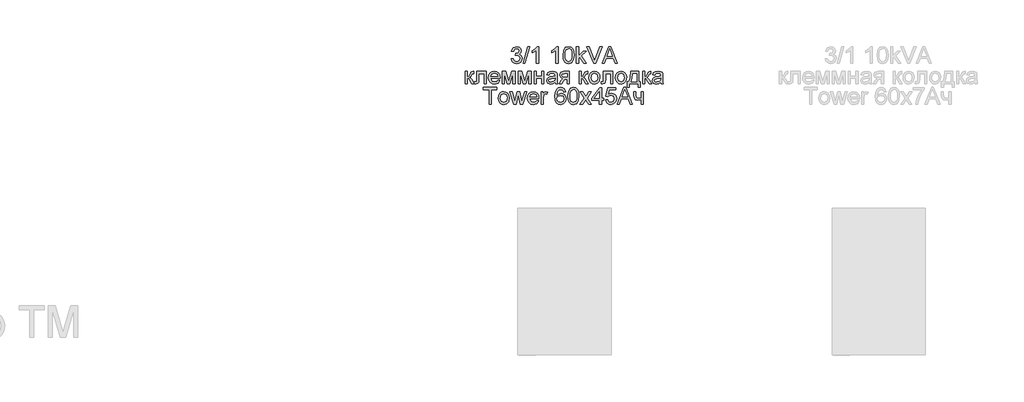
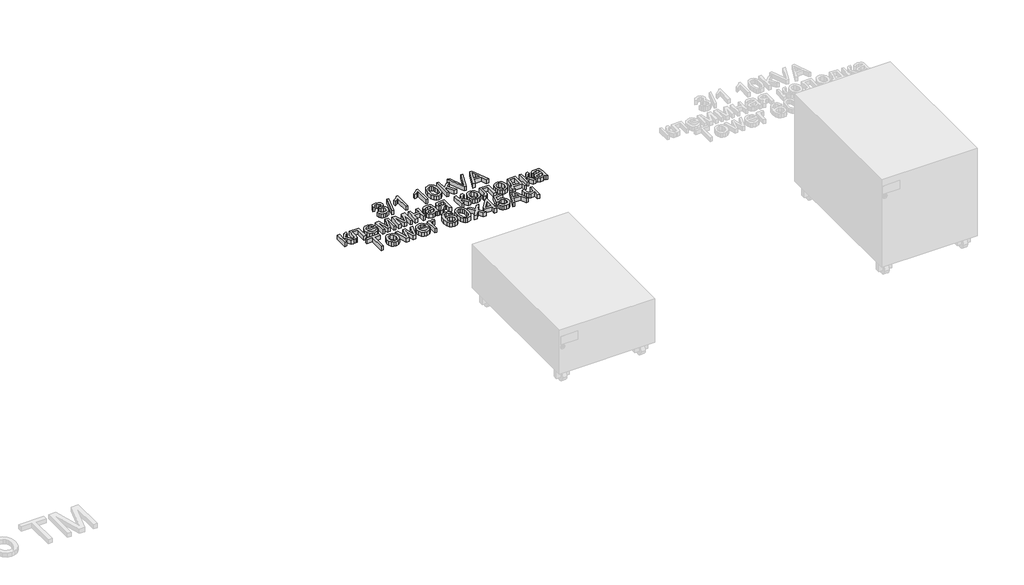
# One storey, part 33 of 74: 1 proxy.
"""IFC4 building model written with IfcOpenShell, lengths in millimetres."""

from ifc_helpers import new_model, si_unit, origin, origin_with_axes, place, context, project, spatial, polyline, outline, extrude, element, save

model = new_model("IFC4")

# Units and contexts
model_context = context("Model", 3, world=origin())
ifc_project = project(units=[si_unit("LENGTHUNIT", "METRE", prefix="MILLI")], contexts=[model_context])

# Site, building, storey
site = spatial("IfcSite", under=ifc_project)
building = spatial("IfcBuilding", under=site)
storey = spatial("IfcBuildingStorey", under=building, Name="Этаж 01", Elevation=0.0)

# Proxy
placement = place(None, origin())
element("IfcBuildingElementProxy", 1, Name="80 мм Arial", ObjectType="80 мм Arial", at=placement, inside=storey, context=model_context, shape_type="SweptSolid", body=[
    extrude(outline(polyline([(1098.3137414, -15105.2863601), (1108.3593724, -15104.0306562), (1113.9021278, -15114.6060373), (1124.2714949, -15117.8433988), (1136.475367, -15113.3895741), (1141.0076732, -15102.3629245), (1136.5146077, -15091.9739369), (1125.0955506, -15087.8634688), (1118.0518367, -15088.9622097), (1119.1701979, -15078.9165786), (1120.7790685, -15079.0343009), (1132.1785053, -15076.150106), (1137.2405615, -15067.2816974), (1133.5715518, -15059.423738), (1124.114532, -15056.3139089), (1114.5397899, -15059.4531685), (1109.6150762, -15068.8709476), (1099.5694452, -15067.6152437), (1107.7903816, -15051.8600842), (1123.7613652, -15046.2682778), (1135.8769456, -15049.0249403), (1144.3529468, -15056.5591635), (1147.2861926, -15066.6930862), (1144.5000996, -15075.9539023), (1136.2595429, -15082.6052088), (1147.2077111, -15089.4723394), (1151.0533042, -15102.5395078), (1149.1305076, -15112.330074), (1143.3621179, -15120.5117696), (1134.6555774, -15126.0447148), (1123.9183282, -15127.8890298), (1114.2062435, -15126.3144949), (1106.2992332, -15121.5908901), (1100.8006236, -15114.3656877), (1098.3137414, -15105.2863601)])), origin_with_axes(), (0.0, 0.0, 1.0), 20.0),
    extrude(outline(polyline([(1154.8204158, -15126.633326), (1177.4230856, -15046.2682778), (1186.487698, -15046.2682778), (1163.8850282, -15126.633326), (1154.8204158, -15126.633326)])), origin_with_axes(), (0.0, 0.0, 1.0), 20.0),
    extrude(outline(polyline([(1228.9069446, -15126.633326), (1218.8613135, -15126.633326), (1218.8613135, -15064.0050951), (1209.3454326, -15070.783934), (1198.7700515, -15075.8558004), (1198.7700515, -15066.3595399), (1213.4951415, -15056.9613812), (1222.4322214, -15046.2682778), (1228.9069446, -15046.2682778), (1228.9069446, -15126.633326)])), origin_with_axes(), (0.0, 0.0, 1.0), 20.0),
    extrude(outline(polyline([(1321.8290314, -15126.633326), (1311.7834004, -15126.633326), (1311.7834004, -15064.0050951), (1302.2675195, -15070.783934), (1291.6921384, -15075.8558004), (1291.6921384, -15066.3595399), (1306.4172284, -15056.9613812), (1315.3543083, -15046.2682778), (1321.8290314, -15046.2682778), (1321.8290314, -15126.633326)])), origin_with_axes(), (0.0, 0.0, 1.0), 20.0),
    extrude(outline(polyline([(1345.6874051, -15087.0982742), (1348.6402712, -15063.9756645), (1357.410578, -15050.643621), (1372.0571865, -15046.2682778), (1383.7901696, -15048.8581671), (1391.8933837, -15056.323719), (1396.6022732, -15068.2136651), (1398.4269679, -15087.0982742), (1395.5035323, -15110.122782), (1386.7626561, -15123.4842561), (1372.0571865, -15127.8890298), (1361.619148, -15125.9760435), (1353.6925173, -15120.2370843), (1347.6886832, -15106.6450709), (1345.6874051, -15087.0982742)]), holes=[polyline([(1355.7330361, -15087.0786538), (1356.9102585, -15102.8804118), (1360.4419257, -15112.0259582), (1372.0571865, -15117.8433988), (1383.6724474, -15112.0063378), (1387.2041145, -15102.8558863), (1388.3813369, -15087.0786538), (1387.2433553, -15071.6325151), (1383.8294104, -15062.4158449), (1378.5809606, -15057.8393929), (1371.9394643, -15056.3139089), (1360.5988886, -15061.6898911), (1356.9494992, -15071.4804572), (1355.7330361, -15087.0786538)])]), origin_with_axes(), (0.0, 0.0, 1.0), 20.0),
    extrude(outline(polyline([(1409.7283028, -15126.633326), (1409.7283028, -15046.2682778), (1419.7739338, -15046.2682778), (1419.7739338, -15089.452719), (1442.2981221, -15067.6152437), (1456.1893463, -15067.6152437), (1433.3904728, -15089.7274042), (1457.4450501, -15126.633326), (1445.712067, -15126.633326), (1426.1897958, -15096.712257), (1419.7739338, -15102.9319153), (1419.7739338, -15126.633326), (1409.7283028, -15126.633326)])), origin_with_axes(), (0.0, 0.0, 1.0), 20.0),
    extrude(outline(polyline([(1532.2182919, -15126.633326), (1564.2976019, -15046.2682778), (1572.8520846, -15046.2682778), (1604.9313946, -15126.633326), (1594.3167727, -15126.633326), (1585.1148177, -15101.5192484), (1552.0152484, -15101.5192484), (1542.8329138, -15126.633326), (1532.2182919, -15126.633326)]), holes=[polyline([(1555.7038785, -15091.4736174), (1581.445808, -15091.4736174), (1574.2058903, -15071.7159017), (1568.5748432, -15056.3139089), (1563.5716481, -15069.9893089), (1555.7038785, -15091.4736174)])]), origin_with_axes(), (0.0, 0.0, 1.0), 20.0),
    extrude(outline(polyline([(1491.2313326, -15126.633326), (1459.2501245, -15046.2682778), (1470.0020889, -15046.2682778), (1491.4079159, -15104.1679988), (1495.7440184, -15117.2155469), (1500.0212597, -15104.1679988), (1521.4859479, -15046.2682778), (1532.2379123, -15046.2682778), (1501.6105099, -15126.633326), (1491.2313326, -15126.633326)])), origin_with_axes(), (0.0, 0.0, 1.0), 20.0),
    extrude(outline(polyline([(933.1886815, -15165.195098), (978.3940211, -15165.195098), (978.3940211, -15224.1543191), (968.3483901, -15224.1543191), (968.3483901, -15175.240729), (943.2343126, -15175.240729), (943.2343126, -15203.3959644), (942.5574097, -15216.3846514), (938.839349, -15221.8685457), (930.0494219, -15224.2131802), (921.8873467, -15223.7030505), (921.8873467, -15214.1675492), (926.3804121, -15214.1675492), (930.9225285, -15213.5495075), (932.737413, -15211.5874702), (933.1886815, -15202.8269736), (933.1886815, -15165.195098)])), origin_with_axes(), (0.0, 0.0, 1.0), 20.0),
    extrude(outline(polyline([(879.1934148, -15165.195098), (889.2390459, -15165.195098), (889.2390459, -15190.3091756), (895.9688338, -15188.5041012), (901.4821587, -15177.9875813), (906.0635158, -15168.9131587), (910.1053126, -15165.9602926), (917.4531423, -15165.195098), (919.3759389, -15165.195098), (919.3759389, -15175.2995902), (916.6683274, -15175.240729), (911.7632341, -15176.3002292), (908.3100485, -15182.9122949), (904.2584414, -15190.0639209), (898.5783434, -15193.5661575), (904.9157239, -15197.4755168), (911.1353822, -15205.7111684), (921.8873467, -15224.2131802), (910.4682895, -15224.2131802), (899.9321492, -15206.1035759), (894.6346485, -15198.4418202), (889.2390459, -15196.5876949), (889.2390459, -15224.2131802), (879.1934148, -15224.2131802), (879.1934148, -15165.195098)])), origin_with_axes(), (0.0, 0.0, 1.0), 20.0),
    extrude(outline(polyline([(1034.7829733, -15206.633326), (1044.6324006, -15207.8890298), (1035.4206355, -15220.8580964), (1018.2626192, -15225.4688841), (1006.4756801, -15223.4798688), (997.4061626, -15217.5128228), (991.6230577, -15207.9552486), (989.695356, -15195.1946485), (991.642678, -15182.0048527), (997.4846441, -15172.1407101), (1006.4315342, -15165.9897231), (1017.6936284, -15163.9393941), (1028.6050084, -15165.984818), (1037.3238116, -15172.1210897), (1043.0406979, -15181.9656119), (1044.9463266, -15195.1357873), (1044.8874655, -15197.8433988), (999.740987, -15197.8433988), (1005.5191869, -15210.8909469), (1018.4588229, -15215.4232531), (1028.3082502, -15213.3238732), (1034.7829733, -15206.633326)]), holes=[polyline([(999.740987, -15187.7977678), (1034.9006956, -15187.7977678), (1030.8785191, -15178.6939147), (1017.6543876, -15173.9850252), (1005.2837424, -15177.7423266), (999.740987, -15187.7977678)])]), origin_with_axes(), (0.0, 0.0, 1.0), 20.0),
    extrude(outline(polyline([(1054.9919576, -15165.195098), (1072.2775063, -15165.195098), (1085.5997396, -15212.4409564), (1099.9618527, -15165.195098), (1116.5214476, -15165.195098), (1116.5214476, -15224.2131802), (1106.4758166, -15224.2131802), (1106.4758166, -15176.6926366), (1092.035222, -15224.2131802), (1078.8503313, -15224.2131802), (1065.0375886, -15174.4166734), (1065.0375886, -15224.2131802), (1054.9919576, -15224.2131802), (1054.9919576, -15165.195098)])), origin_with_axes(), (0.0, 0.0, 1.0), 20.0),
    extrude(outline(polyline([(1131.5898941, -15165.195098), (1148.8754428, -15165.195098), (1162.1976761, -15212.4409564), (1176.5597892, -15165.195098), (1193.1193841, -15165.195098), (1193.1193841, -15224.2131802), (1183.073753, -15224.2131802), (1183.073753, -15176.6926366), (1168.6331585, -15224.2131802), (1155.4482678, -15224.2131802), (1141.6355251, -15174.4166734), (1141.6355251, -15224.2131802), (1131.5898941, -15224.2131802), (1131.5898941, -15165.195098)])), origin_with_axes(), (0.0, 0.0, 1.0), 20.0),
    extrude(outline(polyline([(1208.1878306, -15165.195098), (1218.2334616, -15165.195098), (1218.2334616, -15187.7977678), (1244.603243, -15187.7977678), (1244.603243, -15165.195098), (1254.648874, -15165.195098), (1254.648874, -15224.2131802), (1244.603243, -15224.2131802), (1244.603243, -15197.8433988), (1218.2334616, -15197.8433988), (1218.2334616, -15224.2131802), (1208.1878306, -15224.2131802), (1208.1878306, -15165.195098)])), origin_with_axes(), (0.0, 0.0, 1.0), 20.0),
    extrude(outline(polyline([(1307.3884369, -15216.678957), (1297.6469216, -15223.4872264), (1286.885147, -15225.4688841), (1272.2973996, -15220.7011335), (1267.2059128, -15208.5168818), (1269.1287094, -15200.5706307), (1274.1809554, -15194.802241), (1281.2148592, -15191.5060183), (1289.9066844, -15189.9952496), (1307.3295757, -15186.5420639), (1307.3884369, -15184.3053414), (1304.6219643, -15176.8888404), (1293.5168331, -15173.9850252), (1283.3534798, -15175.9176319), (1278.5072477, -15182.7749523), (1268.4616167, -15181.5192484), (1272.8075293, -15171.7090619), (1281.5582157, -15165.9602926), (1294.8117777, -15163.9393941), (1306.9862192, -15165.7248481), (1313.86316, -15170.2081033), (1316.9435585, -15177.026183), (1317.4340679, -15185.8161101), (1317.4340679, -15198.3142878), (1317.9441976, -15215.7666096), (1319.9454756, -15224.2131802), (1309.8998446, -15224.2131802), (1307.3884369, -15216.678957)]), holes=[polyline([(1307.3884369, -15196.5876949), (1291.1820087, -15199.6680935), (1282.5392344, -15201.2965845), (1278.6249699, -15203.9453348), (1277.2515438, -15207.8105483), (1280.2436507, -15213.2453917), (1289.0237677, -15215.4232531), (1299.1871209, -15213.0197574), (1305.7403255, -15207.2023168), (1307.3295757, -15199.432649), (1307.3884369, -15196.5876949)])]), origin_with_axes(), (0.0, 0.0, 1.0), 20.0),
    extrude(outline(polyline([(1376.4521501, -15165.195098), (1376.4521501, -15224.2131802), (1366.4065191, -15224.2131802), (1366.4065191, -15201.6105105), (1360.932435, -15201.6105105), (1353.4766932, -15202.8858347), (1346.47222, -15211.4599377), (1338.4671078, -15224.2131802), (1326.8518469, -15224.2131802), (1336.9367187, -15208.0852336), (1345.4912014, -15199.7269546), (1333.797459, -15193.6250186), (1329.9911066, -15182.2452022), (1335.1905055, -15169.9236079), (1350.2393317, -15165.195098), (1376.4521501, -15165.195098)]), holes=[polyline([(1366.4065191, -15175.240729), (1353.1627672, -15175.240729), (1342.4402334, -15177.5657432), (1340.0367377, -15183.0103968), (1343.578215, -15189.4949301), (1356.1254436, -15191.5648794), (1366.4065191, -15191.5648794), (1366.4065191, -15175.240729)])]), origin_with_axes(), (0.0, 0.0, 1.0), 20.0),
    extrude(outline(polyline([(1422.9131935, -15165.195098), (1432.9588245, -15165.195098), (1432.9588245, -15190.3091756), (1439.6886125, -15188.5041012), (1445.2019373, -15177.9875813), (1449.7832945, -15168.9131587), (1453.8250913, -15165.9602926), (1461.172921, -15165.195098), (1463.0957176, -15165.195098), (1463.0957176, -15175.2995902), (1460.3881061, -15175.240729), (1455.4830128, -15176.3002292), (1452.0298272, -15182.9122949), (1447.9782201, -15190.0639209), (1442.2981221, -15193.5661575), (1448.6355026, -15197.4755168), (1454.8551609, -15205.7111684), (1465.6071253, -15224.2131802), (1454.1880682, -15224.2131802), (1443.6519279, -15206.1035759), (1438.3544271, -15198.4418202), (1432.9588245, -15196.5876949), (1432.9588245, -15224.2131802), (1422.9131935, -15224.2131802), (1422.9131935, -15165.195098)])), origin_with_axes(), (0.0, 0.0, 1.0), 20.0),
    extrude(outline(polyline([(1469.374237, -15194.7041391), (1471.5471933, -15180.4744636), (1478.0660622, -15170.4729784), (1486.1202254, -15165.5727902), (1495.7636388, -15163.9393941), (1506.3169469, -15165.9284095), (1514.7463497, -15171.8954554), (1520.2719373, -15181.3696431), (1522.1137998, -15193.8800835), (1518.8568179, -15211.7542433), (1509.3703675, -15221.8685457), (1495.7636388, -15225.4688841), (1485.0827982, -15223.4872264), (1476.6632056, -15217.5422534), (1471.1964791, -15207.8694095), (1469.374237, -15194.7041391)]), holes=[polyline([(1479.419868, -15194.6845188), (1484.0698964, -15210.2532848), (1495.7636388, -15215.4232531), (1507.4181404, -15210.2238542), (1512.0681688, -15194.3705928), (1507.3887098, -15179.1549935), (1495.7636388, -15173.9850252), (1484.0698964, -15179.1353731), (1479.419868, -15194.6845188)])]), origin_with_axes(), (0.0, 0.0, 1.0), 20.0),
    extrude(outline(polyline([(1538.4379502, -15165.195098), (1583.6432898, -15165.195098), (1583.6432898, -15224.1543191), (1573.5976588, -15224.1543191), (1573.5976588, -15175.240729), (1548.4835812, -15175.240729), (1548.4835812, -15203.3959644), (1547.8066783, -15216.3846514), (1544.0886176, -15221.8685457), (1535.2986905, -15224.2131802), (1527.1366153, -15223.7030505), (1527.1366153, -15214.1675492), (1531.6296807, -15214.1675492), (1536.1717971, -15213.5495075), (1537.9866816, -15211.5874702), (1538.4379502, -15202.8269736), (1538.4379502, -15165.195098)])), origin_with_axes(), (0.0, 0.0, 1.0), 20.0),
    extrude(outline(polyline([(1596.2003285, -15194.7041391), (1598.3732849, -15180.4744636), (1604.8921538, -15170.4729784), (1612.946317, -15165.5727902), (1622.5897303, -15163.9393941), (1633.1430385, -15165.9284095), (1641.5724413, -15171.8954554), (1647.0980288, -15181.3696431), (1648.9398914, -15193.8800835), (1645.6829094, -15211.7542433), (1636.1964591, -15221.8685457), (1622.5897303, -15225.4688841), (1611.9088897, -15223.4872264), (1603.4892971, -15217.5422534), (1598.0225707, -15207.8694095), (1596.2003285, -15194.7041391)]), holes=[polyline([(1606.2459596, -15194.6845188), (1610.895988, -15210.2532848), (1622.5897303, -15215.4232531), (1634.2442319, -15210.2238542), (1638.8942603, -15194.3705928), (1634.2148014, -15179.1549935), (1622.5897303, -15173.9850252), (1610.895988, -15179.1353731), (1606.2459596, -15194.6845188)])]), origin_with_axes(), (0.0, 0.0, 1.0), 20.0),
    extrude(outline(polyline([(1669.0311534, -15165.195098), (1706.7022697, -15165.195098), (1706.7022697, -15214.1675492), (1714.236493, -15214.1675492), (1714.236493, -15240.5373306), (1704.1908619, -15240.5373306), (1704.1908619, -15224.2131802), (1662.752634, -15224.2131802), (1662.752634, -15240.5373306), (1652.707003, -15240.5373306), (1652.707003, -15214.1675492), (1658.9855224, -15214.1675492), (1666.7453799, -15195.0082549), (1669.0311534, -15165.195098)]), holes=[polyline([(1677.8210805, -15175.240729), (1675.4666358, -15198.1278942), (1670.2868573, -15214.1675492), (1696.6566387, -15214.1675492), (1696.6566387, -15175.240729), (1677.8210805, -15175.240729)])]), origin_with_axes(), (0.0, 0.0, 1.0), 20.0),
    extrude(outline(polyline([(1725.5378279, -15165.195098), (1735.5834589, -15165.195098), (1735.5834589, -15190.3091756), (1742.3132468, -15188.5041012), (1747.8265717, -15177.9875813), (1752.4079288, -15168.9131587), (1756.4497256, -15165.9602926), (1763.7975554, -15165.195098), (1765.7203519, -15165.195098), (1765.7203519, -15175.2995902), (1763.0127404, -15175.240729), (1758.1076472, -15176.3002292), (1754.6544615, -15182.9122949), (1750.6028545, -15190.0639209), (1744.9227565, -15193.5661575), (1751.260137, -15197.4755168), (1757.4797952, -15205.7111684), (1768.2317597, -15224.2131802), (1756.8127025, -15224.2131802), (1746.2765622, -15206.1035759), (1740.9790615, -15198.4418202), (1735.5834589, -15196.5876949), (1735.5834589, -15224.2131802), (1725.5378279, -15224.2131802), (1725.5378279, -15165.195098)])), origin_with_axes(), (0.0, 0.0, 1.0), 20.0),
    extrude(outline(polyline([(1812.1813954, -15216.678957), (1802.4398801, -15223.4872264), (1791.6781055, -15225.4688841), (1777.0903581, -15220.7011335), (1771.9988713, -15208.5168818), (1773.9216679, -15200.5706307), (1778.9739139, -15194.802241), (1786.0078177, -15191.5060183), (1794.6996429, -15189.9952496), (1812.1225342, -15186.5420639), (1812.1813954, -15184.3053414), (1809.4149228, -15176.8888404), (1798.3097916, -15173.9850252), (1788.1464383, -15175.9176319), (1783.3002062, -15182.7749523), (1773.2545752, -15181.5192484), (1777.6004878, -15171.7090619), (1786.3511742, -15165.9602926), (1799.6047362, -15163.9393941), (1811.7791777, -15165.7248481), (1818.6561185, -15170.2081033), (1821.736517, -15177.026183), (1822.2270264, -15185.8161101), (1822.2270264, -15198.3142878), (1822.7371561, -15215.7666096), (1824.7384341, -15224.2131802), (1814.6928031, -15224.2131802), (1812.1813954, -15216.678957)]), holes=[polyline([(1812.1813954, -15196.5876949), (1795.9749672, -15199.6680935), (1787.3321929, -15201.2965845), (1783.4179284, -15203.9453348), (1782.0445023, -15207.8105483), (1785.0366092, -15213.2453917), (1793.8167262, -15215.4232531), (1803.9800794, -15213.0197574), (1810.533284, -15207.2023168), (1812.1225342, -15199.432649), (1812.1813954, -15196.5876949)])]), origin_with_axes(), (0.0, 0.0, 1.0), 20.0),
    extrude(outline(polyline([(992.2067638, -15321.7930345), (992.2067638, -15251.4736174), (965.8369823, -15251.4736174), (965.8369823, -15241.4279864), (1028.6221762, -15241.4279864), (1028.6221762, -15251.4736174), (1002.2523948, -15251.4736174), (1002.2523948, -15321.7930345), (992.2067638, -15321.7930345)])), origin_with_axes(), (0.0, 0.0, 1.0), 20.0),
    extrude(outline(polyline([(1036.1563995, -15292.2839934), (1038.3293558, -15278.0543178), (1044.8482247, -15268.0528327), (1052.9023879, -15263.1526445), (1062.5458012, -15261.5192484), (1073.0991094, -15263.5082637), (1081.5285122, -15269.4753097), (1087.0540998, -15278.9494974), (1088.8959623, -15291.4599377), (1085.6389803, -15309.3340976), (1076.15253, -15319.4483999), (1062.5458012, -15323.0487384), (1051.8649606, -15321.0670807), (1043.445368, -15315.1221077), (1037.9786416, -15305.4492637), (1036.1563995, -15292.2839934)]), holes=[polyline([(1046.2020305, -15292.264373), (1050.8520589, -15307.8331391), (1062.5458012, -15313.0031074), (1074.2003028, -15307.8037085), (1078.8503313, -15291.9504471), (1074.1708723, -15276.7348477), (1062.5458012, -15271.5648794), (1050.8520589, -15276.7152274), (1046.2020305, -15292.264373)])]), origin_with_axes(), (0.0, 0.0, 1.0), 20.0),
    extrude(outline(polyline([(1109.9878633, -15321.7930345), (1092.035222, -15262.7749523), (1102.4732604, -15262.7749523), (1112.6562341, -15297.208707), (1115.6973919, -15309.510681), (1118.1891793, -15297.6599756), (1126.2923934, -15262.7749523), (1138.2608209, -15262.7749523), (1146.3247943, -15297.5618738), (1148.5418964, -15308.2942178), (1151.7203969, -15296.9732626), (1161.9229909, -15262.7749523), (1172.4002701, -15262.7749523), (1154.3102861, -15321.7930345), (1142.1652752, -15321.7930345), (1134.4544686, -15287.1826964), (1132.217746, -15276.3914912), (1122.2702169, -15321.7930345), (1109.9878633, -15321.7930345)])), origin_with_axes(), (0.0, 0.0, 1.0), 20.0),
    extrude(outline(polyline([(1220.6271471, -15304.2131802), (1230.4765744, -15305.4688841), (1221.2648092, -15318.4379507), (1204.106793, -15323.0487384), (1192.3198539, -15321.0597231), (1183.2503364, -15315.0926771), (1177.4672314, -15305.5351029), (1175.5395298, -15292.7745027), (1177.4868518, -15279.5847069), (1183.3288179, -15269.7205644), (1192.275708, -15263.5695774), (1203.5378022, -15261.5192484), (1214.4491821, -15263.5646723), (1223.1679854, -15269.700944), (1228.8848716, -15279.5454662), (1230.7905004, -15292.7156416), (1230.7316392, -15295.4232531), (1185.5851608, -15295.4232531), (1191.3633607, -15308.4708012), (1204.3029967, -15313.0031074), (1214.152424, -15310.9037275), (1220.6271471, -15304.2131802)]), holes=[polyline([(1185.5851608, -15285.3776221), (1220.7448694, -15285.3776221), (1216.7226929, -15276.273769), (1203.4985614, -15271.5648794), (1191.1279162, -15275.3221809), (1185.5851608, -15285.3776221)])]), origin_with_axes(), (0.0, 0.0, 1.0), 20.0),
    extrude(outline(polyline([(1240.8361314, -15321.7930345), (1240.8361314, -15262.7749523), (1249.6260585, -15262.7749523), (1249.6260585, -15271.5060183), (1255.8653372, -15263.4616654), (1262.1438565, -15261.5192484), (1272.2287283, -15264.6192674), (1268.8736445, -15273.6250186), (1261.8103102, -15271.5648794), (1256.1302122, -15273.5465371), (1252.5102534, -15279.0402416), (1250.8817624, -15290.7732247), (1250.8817624, -15321.7930345), (1240.8361314, -15321.7930345)])), origin_with_axes(), (0.0, 0.0, 1.0), 20.0),
    extrude(outline(polyline([(1358.8722958, -15262.7749523), (1348.8266648, -15264.0306562), (1345.0203124, -15255.6527569), (1334.955061, -15251.4736174), (1325.8904487, -15253.9065437), (1319.0331283, -15263.0398273), (1316.178364, -15280.9434178), (1325.0369624, -15272.9284954), (1336.0145612, -15270.3091756), (1345.2949976, -15272.0995346), (1353.0842857, -15277.4706117), (1358.3670712, -15285.6768328), (1360.1279997, -15295.9726235), (1356.8121566, -15309.8344171), (1347.6886832, -15319.6446037), (1334.5234128, -15323.0487384), (1323.1264286, -15320.7923955), (1314.0495535, -15314.0233668), (1308.1119381, -15302.0745596), (1306.132733, -15284.2788812), (1308.3302148, -15264.2710057), (1314.9226601, -15250.5907006), (1323.9235063, -15243.7186649), (1335.582913, -15241.4279864), (1344.3973656, -15242.8455583), (1351.4557948, -15247.0982742), (1358.8722958, -15262.7749523)]), holes=[polyline([(1316.178364, -15295.8156606), (1318.5033782, -15304.517296), (1324.6837957, -15310.8350561), (1333.7385979, -15313.0031074), (1345.579493, -15308.5100419), (1350.0823687, -15296.3061699), (1345.6383542, -15284.6222377), (1333.3265701, -15280.3548066), (1321.1717489, -15284.6222377), (1316.178364, -15295.8156606)])]), origin_with_axes(), (0.0, 0.0, 1.0), 20.0),
    extrude(outline(polyline([(1368.9179268, -15282.2579828), (1371.870793, -15259.1353731), (1380.6410997, -15245.8033296), (1395.2877082, -15241.4279864), (1407.0206913, -15244.0178756), (1415.1239054, -15251.4834276), (1419.832795, -15263.3733737), (1421.6574897, -15282.2579828), (1418.7340541, -15305.2824906), (1409.9931779, -15318.6439646), (1395.2877082, -15323.0487384), (1384.8496698, -15321.135752), (1376.923039, -15315.3967929), (1370.9192049, -15301.8047794), (1368.9179268, -15282.2579828)]), holes=[polyline([(1378.9635578, -15282.2383624), (1380.1407802, -15298.0401204), (1383.6724474, -15307.1856668), (1395.2877082, -15313.0031074), (1406.9029691, -15307.1660464), (1410.4346363, -15298.0155949), (1411.6118586, -15282.2383624), (1410.473877, -15266.7922237), (1407.0599321, -15257.5755534), (1401.8114823, -15252.9991014), (1395.169986, -15251.4736174), (1383.8294104, -15256.8495996), (1380.180021, -15266.6401658), (1378.9635578, -15282.2383624)])]), origin_with_axes(), (0.0, 0.0, 1.0), 20.0),
    extrude(outline(polyline([(1426.6803052, -15321.7930345), (1448.1449933, -15292.1270304), (1427.936009, -15262.7749523), (1440.0221588, -15262.7749523), (1449.7734843, -15276.9016209), (1454.3254108, -15283.5725478), (1458.2691058, -15278.118084), (1469.374237, -15262.7749523), (1481.4603868, -15262.7749523), (1460.2311431, -15292.1270304), (1480.6755719, -15321.7930345), (1468.589422, -15321.7930345), (1456.2874481, -15303.9581154), (1454.0311052, -15300.7011335), (1438.766455, -15321.7930345), (1426.6803052, -15321.7930345)])), origin_with_axes(), (0.0, 0.0, 1.0), 20.0),
    extrude(outline(polyline([(1519.602392, -15321.7930345), (1519.602392, -15302.9574764), (1483.1869796, -15302.9574764), (1483.1869796, -15292.9118453), (1522.1137998, -15242.6836903), (1529.6480231, -15242.6836903), (1529.6480231, -15292.9118453), (1539.6936541, -15292.9118453), (1539.6936541, -15302.9574764), (1529.6480231, -15302.9574764), (1529.6480231, -15321.7930345), (1519.602392, -15321.7930345)]), holes=[polyline([(1519.602392, -15292.9118453), (1519.602392, -15261.8724151), (1495.5478147, -15292.9118453), (1519.602392, -15292.9118453)])]), origin_with_axes(), (0.0, 0.0, 1.0), 20.0),
    extrude(outline(polyline([(1548.4835812, -15300.4460686), (1558.5292122, -15299.1903647), (1563.5912685, -15309.5401115), (1574.0881681, -15313.0031074), (1586.6844476, -15308.1863058), (1591.177513, -15295.4036327), (1586.968943, -15283.4744459), (1574.2451311, -15279.0991027), (1565.4257734, -15280.8453159), (1559.7849161, -15285.3776221), (1549.7392851, -15284.1219182), (1558.5292122, -15242.6836903), (1597.4560324, -15242.6836903), (1597.4560324, -15252.7293213), (1566.6520467, -15252.7293213), (1562.355185, -15274.8611021), (1577.0508444, -15269.0534717), (1586.4367404, -15270.8536409), (1594.228481, -15276.2541486), (1599.4744783, -15284.4848951), (1601.223144, -15294.7757808), (1599.6486091, -15304.8214118), (1594.9250043, -15313.4151352), (1585.8800123, -15320.6403376), (1574.0489273, -15323.0487384), (1564.1823322, -15321.5011815), (1556.3219203, -15316.8585107), (1550.9336753, -15309.6602863), (1548.4835812, -15300.4460686)])), origin_with_axes(), (0.0, 0.0, 1.0), 20.0),
    extrude(outline(polyline([(1604.4212649, -15321.7930345), (1636.5005748, -15241.4279864), (1645.0550575, -15241.4279864), (1677.1343675, -15321.7930345), (1666.5197456, -15321.7930345), (1657.3177907, -15296.678957), (1624.2182213, -15296.678957), (1615.0358867, -15321.7930345), (1604.4212649, -15321.7930345)]), holes=[polyline([(1627.9068514, -15286.633326), (1653.6487809, -15286.633326), (1646.4088632, -15266.8756103), (1640.7778162, -15251.4736174), (1635.774621, -15265.1490174), (1627.9068514, -15286.633326)])]), origin_with_axes(), (0.0, 0.0, 1.0), 20.0),
    extrude(outline(polyline([(1682.843896, -15262.7749523), (1692.8895271, -15262.7749523), (1692.8895271, -15274.0959076), (1693.7037725, -15284.7105294), (1697.618037, -15290.4592987), (1705.3877047, -15292.9118453), (1719.2593085, -15289.8706875), (1719.2593085, -15262.7749523), (1729.3049395, -15262.7749523), (1729.3049395, -15321.7930345), (1719.2593085, -15321.7930345), (1719.2593085, -15299.5042907), (1702.6997136, -15302.9574764), (1691.310087, -15299.3571379), (1684.6097296, -15290.5377802), (1682.843896, -15279.059862), (1682.843896, -15262.7749523)])), origin_with_axes(), (0.0, 0.0, 1.0), 20.0),
])

save(model, "model.ifc")
